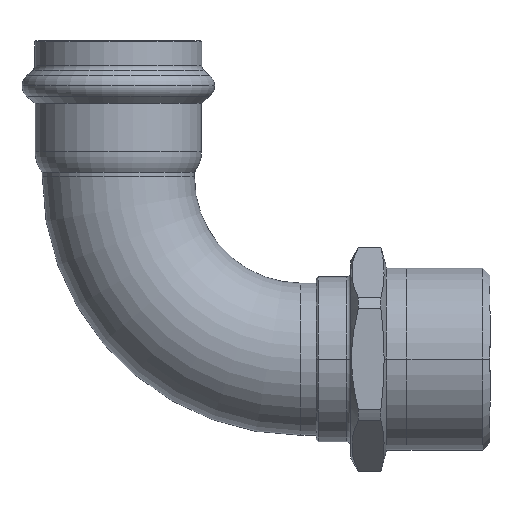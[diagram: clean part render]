
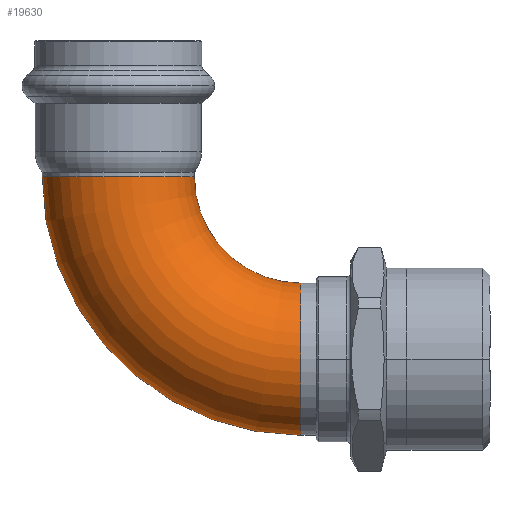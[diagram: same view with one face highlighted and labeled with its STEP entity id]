
A CAD part, top view. The second image highlights one B-rep face of the part: STEP entity #19630.
In plain terms, the highlighted toroidal (fillet/blend) face has major radius 42 mm and minor radius 17.5 mm.
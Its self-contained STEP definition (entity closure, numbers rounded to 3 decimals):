
#18370=CARTESIAN_POINT('',(795.699,76.703,17.5));
#18380=VERTEX_POINT('',#18370);
#18410=CARTESIAN_POINT('',(795.699,76.703,0.));
#18420=DIRECTION('',(0.,-1.,0.));
#18430=DIRECTION('',(0.,0.,1.));
#18440=AXIS2_PLACEMENT_3D('',#18410,#18420,#18430);
#18450=CIRCLE('',#18440,17.5);
#18460=CARTESIAN_POINT('',(795.699,76.703,-17.5));
#18470=VERTEX_POINT('',#18460);
#18480=EDGE_CURVE('',#18470,#18380,#18450,.T.);
#19170=CARTESIAN_POINT('',(795.699,136.203,-42.));
#19180=VERTEX_POINT('',#19170);
#19260=CARTESIAN_POINT('',(795.699,101.203,-42.));
#19270=VERTEX_POINT('',#19260);
#19300=CARTESIAN_POINT('',(795.699,118.703,-42.));
#19310=DIRECTION('',(0.,0.,1.));
#19320=DIRECTION('',(0.,1.,0.));
#19330=AXIS2_PLACEMENT_3D('',#19300,#19310,#19320);
#19340=CIRCLE('',#19330,17.5);
#19350=EDGE_CURVE('',#19270,#19180,#19340,.T.);
#19400=CARTESIAN_POINT('',(795.699,76.703,-42.));
#19410=DIRECTION('',(1.,0.,0.));
#19420=DIRECTION('',(0.,1.,0.));
#19430=AXIS2_PLACEMENT_3D('',#19400,#19410,#19420);
#19440=TOROIDAL_SURFACE('',#19430,42.,17.5);
#19450=CARTESIAN_POINT('',(795.699,76.703,-42.));
#19460=DIRECTION('',(1.,0.,0.));
#19470=DIRECTION('',(0.,1.,0.));
#19480=AXIS2_PLACEMENT_3D('',#19450,#19460,#19470);
#19490=CIRCLE('',#19480,59.5);
#19500=EDGE_CURVE('',#19180,#18380,#19490,.T.);
#19510=ORIENTED_EDGE('',*,*,#19500,.T.);
#19520=ORIENTED_EDGE('',*,*,#19350,.T.);
#19530=CARTESIAN_POINT('',(795.699,76.703,-42.));
#19540=DIRECTION('',(1.,0.,0.));
#19550=DIRECTION('',(0.,1.,0.));
#19560=AXIS2_PLACEMENT_3D('',#19530,#19540,#19550);
#19570=CIRCLE('',#19560,24.5);
#19580=EDGE_CURVE('',#19270,#18470,#19570,.T.);
#19590=ORIENTED_EDGE('',*,*,#19580,.F.);
#19600=ORIENTED_EDGE('',*,*,#18480,.F.);
#19610=EDGE_LOOP('',(#19600,#19590,#19520,#19510));
#19620=FACE_OUTER_BOUND('',#19610,.T.);
#19630=ADVANCED_FACE('',(#19620),#19440,.T.);
